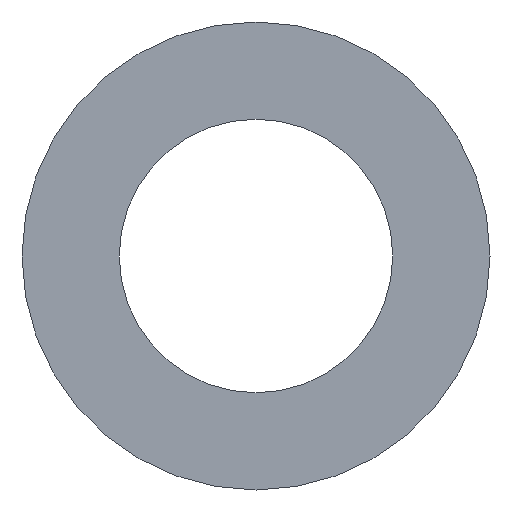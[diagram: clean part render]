
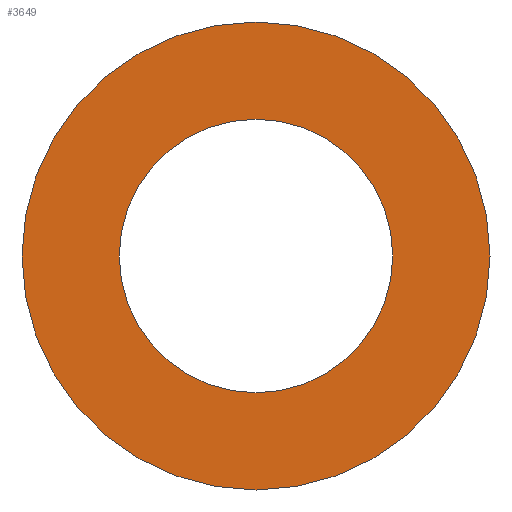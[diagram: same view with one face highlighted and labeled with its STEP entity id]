
A CAD part, front view. The second image highlights one B-rep face of the part: STEP entity #3649.
In plain terms, the highlighted planar face has unit normal (0, -1, 0).
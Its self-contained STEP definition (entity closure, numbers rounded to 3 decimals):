
#163 = CARTESIAN_POINT ( 'NONE',  ( 0., -14., -19. ) ) ;
#250 = ORIENTED_EDGE ( 'NONE', *, *, #3203, .F. ) ;
#419 = VERTEX_POINT ( 'NONE', #1386 ) ;
#561 = DIRECTION ( 'NONE',  ( 0., 0., -1. ) ) ;
#585 = CIRCLE ( 'NONE', #3446, 19. ) ;
#662 = DIRECTION ( 'NONE',  ( 0., 0., -1. ) ) ;
#697 = CARTESIAN_POINT ( 'NONE',  ( 0., -14., 19. ) ) ;
#745 = VERTEX_POINT ( 'NONE', #1278 ) ;
#777 = EDGE_CURVE ( 'NONE', #745, #419, #3002, .T. ) ;
#801 = CARTESIAN_POINT ( 'NONE',  ( 0., -14., 0. ) ) ;
#985 = DIRECTION ( 'NONE',  ( 0., 0., -1. ) ) ;
#993 = DIRECTION ( 'NONE',  ( 0., 0., 1. ) ) ;
#1020 = AXIS2_PLACEMENT_3D ( 'NONE', #697, #3518, #993 ) ;
#1278 = CARTESIAN_POINT ( 'NONE',  ( 0., -14., -32.5 ) ) ;
#1336 = CIRCLE ( 'NONE', #2615, 19. ) ;
#1386 = CARTESIAN_POINT ( 'NONE',  ( 0., -14., 32.5 ) ) ;
#1395 = ORIENTED_EDGE ( 'NONE', *, *, #1622, .T. ) ;
#1545 = PLANE ( 'NONE',  #1020 ) ;
#1619 = CIRCLE ( 'NONE', #1636, 32.5 ) ;
#1622 = EDGE_CURVE ( 'NONE', #419, #745, #1619, .T. ) ;
#1624 = DIRECTION ( 'NONE',  ( 0., 0., -1. ) ) ;
#1636 = AXIS2_PLACEMENT_3D ( 'NONE', #2859, #1966, #561 ) ;
#1764 = VERTEX_POINT ( 'NONE', #1773 ) ;
#1773 = CARTESIAN_POINT ( 'NONE',  ( 0., -14., 19. ) ) ;
#1828 = DIRECTION ( 'NONE',  ( 0., -1., 0. ) ) ;
#1857 = EDGE_CURVE ( 'NONE', #1764, #2690, #585, .T. ) ;
#1939 = DIRECTION ( 'NONE',  ( 0., -1., 0. ) ) ;
#1966 = DIRECTION ( 'NONE',  ( 0., -1., 0. ) ) ;
#2114 = DIRECTION ( 'NONE',  ( 0., -1., 0. ) ) ;
#2138 = CARTESIAN_POINT ( 'NONE',  ( 0., -14., 0. ) ) ;
#2201 = EDGE_LOOP ( 'NONE', ( #250, #3468 ) ) ;
#2363 = CARTESIAN_POINT ( 'NONE',  ( 0., -14., 0. ) ) ;
#2615 = AXIS2_PLACEMENT_3D ( 'NONE', #801, #1939, #1624 ) ;
#2627 = AXIS2_PLACEMENT_3D ( 'NONE', #2138, #1828, #985 ) ;
#2668 = FACE_OUTER_BOUND ( 'NONE', #2927, .T. ) ;
#2690 = VERTEX_POINT ( 'NONE', #163 ) ;
#2850 = FACE_BOUND ( 'NONE', #2201, .T. ) ;
#2859 = CARTESIAN_POINT ( 'NONE',  ( 0., -14., 0. ) ) ;
#2927 = EDGE_LOOP ( 'NONE', ( #3689, #1395 ) ) ;
#3002 = CIRCLE ( 'NONE', #2627, 32.5 ) ;
#3203 = EDGE_CURVE ( 'NONE', #2690, #1764, #1336, .T. ) ;
#3446 = AXIS2_PLACEMENT_3D ( 'NONE', #2363, #2114, #662 ) ;
#3468 = ORIENTED_EDGE ( 'NONE', *, *, #1857, .F. ) ;
#3518 = DIRECTION ( 'NONE',  ( 0., 1., 0. ) ) ;
#3649 = ADVANCED_FACE ( 'NONE', ( #2850, #2668 ), #1545, .F. ) ;
#3689 = ORIENTED_EDGE ( 'NONE', *, *, #777, .T. ) ;
